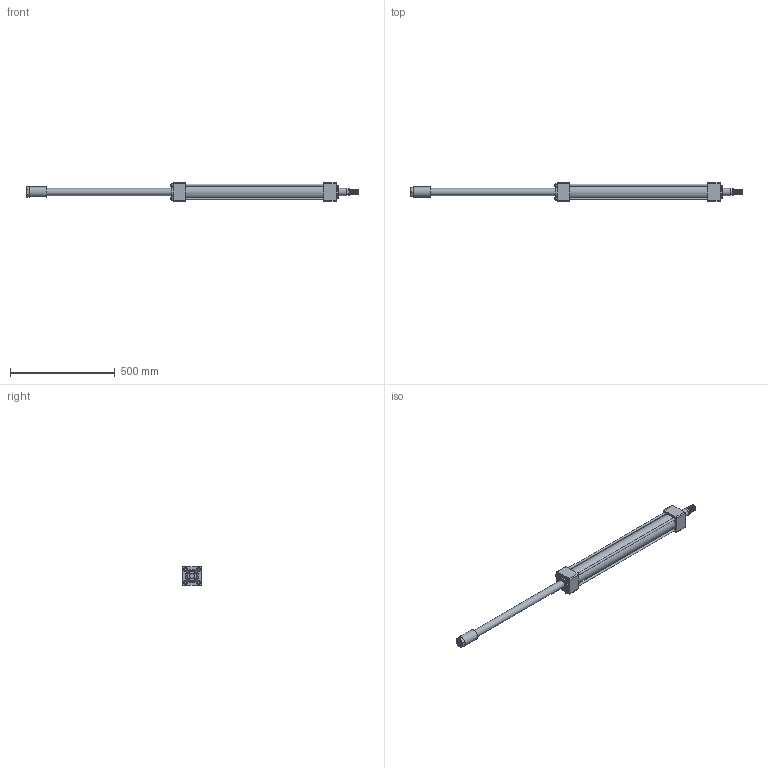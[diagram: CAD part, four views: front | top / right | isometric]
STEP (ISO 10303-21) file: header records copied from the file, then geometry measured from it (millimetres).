
FILE_DESCRIPTION(/* description */ (''),/* implementation_level */ '2;1');
FILE_NAME(/* name */ '63_35_600_MONTAJ v8.step',/* time_stamp */ '2024-02-11T13:51:10+03:00',/* author */ (''),/* organization */ (''),/* preprocessor_version */ 'ST-DEVELOPER v20',/* originating_system */ 'Autodesk Translation Framework v12.20.1.177',/* authorisation */ '');
FILE_SCHEMA (('AUTOMOTIVE_DESIGN { 1 0 10303 214 3 1 1 }'));
Products named in the file (22): 63_35_600_MONTAJ; 63_75_H_BORU_600; Bileşen1; KHSC_63_35_ÖN_KAPAK1; KHSC_63_35_ÖN_KAPAK1_1; Bileşen1_1; TPY_63 Kopyala; TPY_TPY_63; K18-63X51X20_5X59X4_2; 35_K_MIL_600; Bileşen1_2; 35_K_MIL_600_ÖN_MIL; Bileşen1_3; AYAR SOMUNU; Bileşen1_4; M10_SAPLAMA; M10_SAPLAMA_1; M10_SAPLAMA_2; M10_SAPLAMA_3; Bileşen1_5; 90592A024_Steel Hex Nut; M10_SOMUN
Assembly tree (27 placements, depth 3):
  63_35_600_MONTAJ
    63_75_H_BORU_600
      Bileşen1
    KHSC_63_35_ÖN_KAPAK1
      Bileşen1_1
    KHSC_63_35_ÖN_KAPAK1_1
      Bileşen1_1
    TPY_63 Kopyala
      TPY_TPY_63
      K18-63X51X20_5X59X4_2
    35_K_MIL_600
      Bileşen1_2
    35_K_MIL_600_ÖN_MIL
      Bileşen1_3
    AYAR SOMUNU
      Bileşen1_4
    M10_SAPLAMA
      Bileşen1_5
    M10_SAPLAMA_1
      Bileşen1_5
    M10_SAPLAMA_2
      Bileşen1_5
    M10_SAPLAMA_3
      Bileşen1_5
    90592A024_Steel Hex Nut
    M10_SOMUN  x3
Bounding box: 1588.5 x 90 x 90 mm (x, y, z)
Volume: 3580954.1 mm3; surface area: 755036.7 mm2
Topology: 18 solids, 18 shells, 609 faces, 1502 edges, 974 vertices
Faces by surface type: cylinder 322, plane 136, cone 102, bspline 28, torus 21
Full cylindrical faces by diameter (mm): 5 x2, 8.526 x8, 9.85 x4, 10 x16, 16.526 x1, 16.662 x22, 17.85 x1, 25.023 x1, 25.529 x62, 27.822 x60, 28 x1, 29.85 x1, 35 x4, 35.5 x8, 38 x3, 40 x3, 42 x2, 43 x2, 43.6 x2, 45.7 x2, 50 x1, 51 x5, 54.48 x2, 54.68 x2, 56.1 x2, 56.8 x2, 57.5 x2, 62.5 x4, 63 x3, 65 x2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
Entity records: 40400 total; most frequent: CARTESIAN_POINT 29537, ORIENTED_EDGE 2282, DIRECTION 1975, EDGE_CURVE 1141, AXIS2_PLACEMENT_3D 817, VERTEX_POINT 744, EDGE_LOOP 517, FACE_OUTER_BOUND 455
